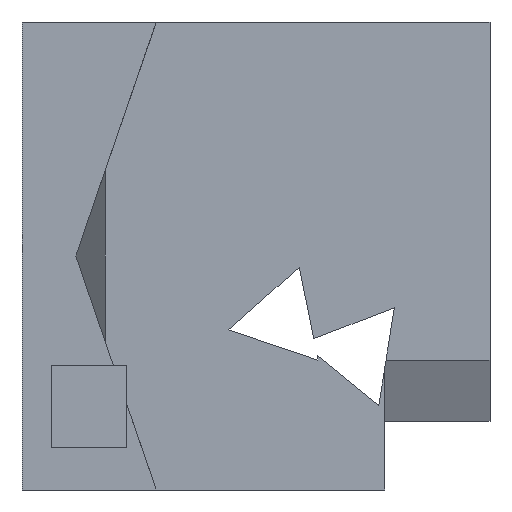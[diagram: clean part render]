
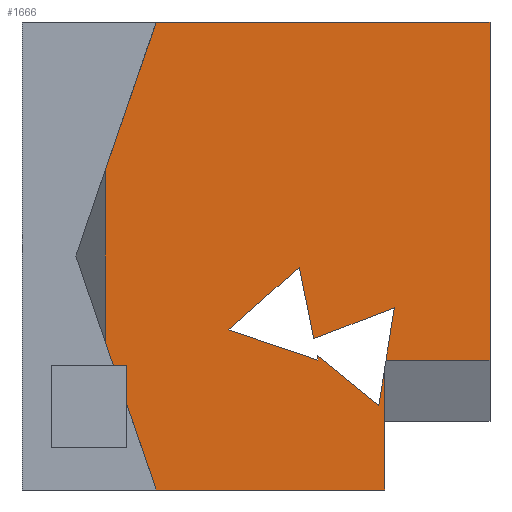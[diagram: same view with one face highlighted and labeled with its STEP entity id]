
A CAD part, front view. The second image highlights one B-rep face of the part: STEP entity #1666.
In plain terms, the highlighted planar face has unit normal (0, -1, 0).
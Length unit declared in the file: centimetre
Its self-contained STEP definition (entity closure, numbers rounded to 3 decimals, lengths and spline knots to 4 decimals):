
#4 = ORIENTED_EDGE ( 'NONE', *, *, #1403, .T. ) ;
#9 = DIRECTION ( 'NONE',  ( -0.75, 0., -0.661 ) ) ;
#31 = LINE ( 'NONE', #419, #900 ) ;
#52 = LINE ( 'NONE', #1656, #345 ) ;
#65 = VECTOR ( 'NONE', #1589, 100. ) ;
#81 = CARTESIAN_POINT ( 'NONE',  ( 775.6052, 0., 263.531 ) ) ;
#83 = VERTEX_POINT ( 'NONE', #1445 ) ;
#106 = EDGE_CURVE ( 'NONE', #389, #1037, #1415, .T. ) ;
#113 = CARTESIAN_POINT ( 'NONE',  ( 0., 0., 1000. ) ) ;
#116 = LINE ( 'NONE', #513, #561 ) ;
#136 = LINE ( 'NONE', #366, #65 ) ;
#156 = ORIENTED_EDGE ( 'NONE', *, *, #1637, .F. ) ;
#195 = DIRECTION ( 'NONE',  ( 0., 0., -1. ) ) ;
#220 = CARTESIAN_POINT ( 'NONE',  ( 222.6038, 0., 266.8172 ) ) ;
#233 = DIRECTION ( 'NONE',  ( 1., 0., 0. ) ) ;
#251 = ORIENTED_EDGE ( 'NONE', *, *, #457, .F. ) ;
#252 = LINE ( 'NONE', #113, #1678 ) ;
#258 = EDGE_CURVE ( 'NONE', #1135, #1655, #875, .T. ) ;
#298 = ORIENTED_EDGE ( 'NONE', *, *, #1005, .T. ) ;
#299 = CARTESIAN_POINT ( 'NONE',  ( 115.257, 0., 500. ) ) ;
#345 = VECTOR ( 'NONE', #578, 100. ) ;
#346 = ORIENTED_EDGE ( 'NONE', *, *, #535, .F. ) ;
#348 = DIRECTION ( 'NONE',  ( 0., 1., 0. ) ) ;
#366 = CARTESIAN_POINT ( 'NONE',  ( 762.434, 0., 180.6621 ) ) ;
#379 = CARTESIAN_POINT ( 'NONE',  ( 286.8849, 0., 0. ) ) ;
#389 = VERTEX_POINT ( 'NONE', #1055 ) ;
#395 = DIRECTION ( 'NONE',  ( 0., 0., -1. ) ) ;
#396 = EDGE_CURVE ( 'NONE', #860, #530, #252, .T. ) ;
#401 = ORIENTED_EDGE ( 'NONE', *, *, #944, .F. ) ;
#419 = CARTESIAN_POINT ( 'NONE',  ( 762.434, 0., 180.6621 ) ) ;
#438 = LINE ( 'NONE', #748, #837 ) ;
#457 = EDGE_CURVE ( 'NONE', #501, #459, #507, .T. ) ;
#459 = VERTEX_POINT ( 'NONE', #1178 ) ;
#469 = CARTESIAN_POINT ( 'NONE',  ( 177.6608, 0., 681.7996 ) ) ;
#479 = VERTEX_POINT ( 'NONE', #379 ) ;
#501 = VERTEX_POINT ( 'NONE', #827 ) ;
#507 = LINE ( 'NONE', #1576, #927 ) ;
#513 = CARTESIAN_POINT ( 'NONE',  ( 775.6052, 0., 277.6959 ) ) ;
#515 = CARTESIAN_POINT ( 'NONE',  ( 762.434, 0., 180.6621 ) ) ;
#530 = VERTEX_POINT ( 'NONE', #1080 ) ;
#535 = EDGE_CURVE ( 'NONE', #479, #613, #957, .T. ) ;
#538 = VERTEX_POINT ( 'NONE', #1354 ) ;
#553 = DIRECTION ( 'NONE',  ( -0.157, 0., -0.988 ) ) ;
#561 = VECTOR ( 'NONE', #1580, 100. ) ;
#563 = VECTOR ( 'NONE', #1302, 100. ) ;
#574 = VERTEX_POINT ( 'NONE', #1476 ) ;
#578 = DIRECTION ( 'NONE',  ( 0., 0., -1. ) ) ;
#582 = EDGE_CURVE ( 'NONE', #1167, #1326, #31, .T. ) ;
#593 = DIRECTION ( 'NONE',  ( -0.325, 0., 0.946 ) ) ;
#597 = ORIENTED_EDGE ( 'NONE', *, *, #1130, .F. ) ;
#613 = VERTEX_POINT ( 'NONE', #1594 ) ;
#618 = CARTESIAN_POINT ( 'NONE',  ( 775.6052, 0., 277.6959 ) ) ;
#620 = VECTOR ( 'NONE', #672, 100. ) ;
#644 = ORIENTED_EDGE ( 'NONE', *, *, #1303, .F. ) ;
#655 = DIRECTION ( 'NONE',  ( 0.948, 0., -0.319 ) ) ;
#672 = DIRECTION ( 'NONE',  ( 1., 0., 0. ) ) ;
#728 = DIRECTION ( 'NONE',  ( -0.197, 0., 0.98 ) ) ;
#736 = VECTOR ( 'NONE', #757, 100. ) ;
#737 = VERTEX_POINT ( 'NONE', #1078 ) ;
#748 = CARTESIAN_POINT ( 'NONE',  ( 62.1866, 0., 266.8172 ) ) ;
#757 = DIRECTION ( 'NONE',  ( -0.325, 0., 0.946 ) ) ;
#778 = CARTESIAN_POINT ( 'NONE',  ( 177.6608, 0., 1000. ) ) ;
#793 = CARTESIAN_POINT ( 'NONE',  ( 0., 0., 0. ) ) ;
#795 = DIRECTION ( 'NONE',  ( -0.777, 0., 0.63 ) ) ;
#796 = ORIENTED_EDGE ( 'NONE', *, *, #922, .F. ) ;
#811 = VECTOR ( 'NONE', #728, 100. ) ;
#827 = CARTESIAN_POINT ( 'NONE',  ( 440.8696, 0., 342.2389 ) ) ;
#837 = VECTOR ( 'NONE', #852, 100. ) ;
#844 = LINE ( 'NONE', #1367, #811 ) ;
#851 = VERTEX_POINT ( 'NONE', #220 ) ;
#852 = DIRECTION ( 'NONE',  ( -1., 0., 0. ) ) ;
#860 = VERTEX_POINT ( 'NONE', #977 ) ;
#875 = LINE ( 'NONE', #1675, #1038 ) ;
#877 = DIRECTION ( 'NONE',  ( 0., 0., 1. ) ) ;
#890 = EDGE_CURVE ( 'NONE', #479, #538, #1057, .T. ) ;
#891 = EDGE_LOOP ( 'NONE', ( #1200, #1124, #1672, #298, #1247, #1410, #401, #4, #1420, #597, #1270, #346, #1433, #156, #1276, #1154, #644, #251, #796 ) ) ;
#900 = VECTOR ( 'NONE', #553, 100. ) ;
#922 = EDGE_CURVE ( 'NONE', #83, #501, #1595, .T. ) ;
#923 = VECTOR ( 'NONE', #9, 100. ) ;
#927 = VECTOR ( 'NONE', #655, 100. ) ;
#930 = CARTESIAN_POINT ( 'NONE',  ( 286.8849, 0., 1000. ) ) ;
#932 = LINE ( 'NONE', #1447, #563 ) ;
#944 = EDGE_CURVE ( 'NONE', #1650, #860, #1688, .T. ) ;
#949 = VECTOR ( 'NONE', #1331, 100. ) ;
#957 = LINE ( 'NONE', #299, #1284 ) ;
#977 = CARTESIAN_POINT ( 'NONE',  ( 286.8849, 0., 1000. ) ) ;
#983 = CARTESIAN_POINT ( 'NONE',  ( 1000., 0., 277.6959 ) ) ;
#1002 = CARTESIAN_POINT ( 'NONE',  ( 795.593, 0., 389.2869 ) ) ;
#1005 = EDGE_CURVE ( 'NONE', #574, #1683, #116, .T. ) ;
#1034 = VECTOR ( 'NONE', #395, 100. ) ;
#1037 = VERTEX_POINT ( 'NONE', #1261 ) ;
#1038 = VECTOR ( 'NONE', #1275, 100. ) ;
#1051 = CARTESIAN_POINT ( 'NONE',  ( 592.5684, 0., 475.9029 ) ) ;
#1053 = LINE ( 'NONE', #778, #1034 ) ;
#1055 = CARTESIAN_POINT ( 'NONE',  ( 195.2984, 0., 266.8172 ) ) ;
#1057 = LINE ( 'NONE', #793, #620 ) ;
#1066 = VECTOR ( 'NONE', #195, 100. ) ;
#1078 = CARTESIAN_POINT ( 'NONE',  ( 630.4732, 0., 287.6406 ) ) ;
#1080 = CARTESIAN_POINT ( 'NONE',  ( 1000., 0., 1000. ) ) ;
#1104 = CARTESIAN_POINT ( 'NONE',  ( 0., 0., 1000. ) ) ;
#1105 = EDGE_CURVE ( 'NONE', #530, #1683, #52, .T. ) ;
#1124 = ORIENTED_EDGE ( 'NONE', *, *, #258, .T. ) ;
#1130 = EDGE_CURVE ( 'NONE', #851, #389, #438, .T. ) ;
#1135 = VERTEX_POINT ( 'NONE', #1501 ) ;
#1154 = ORIENTED_EDGE ( 'NONE', *, *, #1304, .T. ) ;
#1158 = CARTESIAN_POINT ( 'NONE',  ( 115.257, 0., 500. ) ) ;
#1164 = EDGE_CURVE ( 'NONE', #1135, #83, #844, .T. ) ;
#1167 = VERTEX_POINT ( 'NONE', #81 ) ;
#1174 = CARTESIAN_POINT ( 'NONE',  ( 598.3392, 0., 313.6911 ) ) ;
#1178 = CARTESIAN_POINT ( 'NONE',  ( 632.4754, 0., 277.6959 ) ) ;
#1200 = ORIENTED_EDGE ( 'NONE', *, *, #1164, .F. ) ;
#1247 = ORIENTED_EDGE ( 'NONE', *, *, #1105, .F. ) ;
#1261 = CARTESIAN_POINT ( 'NONE',  ( 177.6608, 0., 318.2004 ) ) ;
#1270 = ORIENTED_EDGE ( 'NONE', *, *, #1496, .F. ) ;
#1275 = DIRECTION ( 'NONE',  ( 0.934, 0., 0.358 ) ) ;
#1276 = ORIENTED_EDGE ( 'NONE', *, *, #582, .T. ) ;
#1284 = VECTOR ( 'NONE', #593, 100. ) ;
#1302 = DIRECTION ( 'NONE',  ( -0.197, 0., 0.98 ) ) ;
#1303 = EDGE_CURVE ( 'NONE', #459, #737, #932, .T. ) ;
#1304 = EDGE_CURVE ( 'NONE', #1326, #737, #1608, .T. ) ;
#1326 = VERTEX_POINT ( 'NONE', #515 ) ;
#1331 = DIRECTION ( 'NONE',  ( 0., 0., 1. ) ) ;
#1354 = CARTESIAN_POINT ( 'NONE',  ( 775.6052, 0., 0. ) ) ;
#1367 = CARTESIAN_POINT ( 'NONE',  ( 632.4754, 0., 277.6959 ) ) ;
#1378 = EDGE_CURVE ( 'NONE', #1655, #574, #136, .T. ) ;
#1403 = EDGE_CURVE ( 'NONE', #1650, #1037, #1053, .T. ) ;
#1410 = ORIENTED_EDGE ( 'NONE', *, *, #396, .F. ) ;
#1415 = LINE ( 'NONE', #1158, #736 ) ;
#1417 = DIRECTION ( 'NONE',  ( 0.325, 0., 0.946 ) ) ;
#1418 = VECTOR ( 'NONE', #795, 100. ) ;
#1420 = ORIENTED_EDGE ( 'NONE', *, *, #106, .F. ) ;
#1433 = ORIENTED_EDGE ( 'NONE', *, *, #890, .T. ) ;
#1445 = CARTESIAN_POINT ( 'NONE',  ( 592.5684, 0., 475.9029 ) ) ;
#1447 = CARTESIAN_POINT ( 'NONE',  ( 632.4754, 0., 277.6959 ) ) ;
#1476 = CARTESIAN_POINT ( 'NONE',  ( 777.8566, 0., 277.6959 ) ) ;
#1496 = EDGE_CURVE ( 'NONE', #613, #851, #1612, .T. ) ;
#1501 = CARTESIAN_POINT ( 'NONE',  ( 623.302, 0., 323.2579 ) ) ;
#1510 = LINE ( 'NONE', #618, #1066 ) ;
#1517 = FACE_OUTER_BOUND ( 'NONE', #891, .T. ) ;
#1535 = AXIS2_PLACEMENT_3D ( 'NONE', #1104, #348, #877 ) ;
#1537 = PLANE ( 'NONE',  #1535 ) ;
#1576 = CARTESIAN_POINT ( 'NONE',  ( 440.8696, 0., 342.2389 ) ) ;
#1580 = DIRECTION ( 'NONE',  ( 1., 0., 0. ) ) ;
#1589 = DIRECTION ( 'NONE',  ( -0.157, 0., -0.988 ) ) ;
#1594 = CARTESIAN_POINT ( 'NONE',  ( 222.6038, 0., 187.2689 ) ) ;
#1595 = LINE ( 'NONE', #1051, #923 ) ;
#1608 = LINE ( 'NONE', #1174, #1418 ) ;
#1612 = LINE ( 'NONE', #1629, #949 ) ;
#1629 = CARTESIAN_POINT ( 'NONE',  ( 222.6038, 0., 90.8346 ) ) ;
#1637 = EDGE_CURVE ( 'NONE', #1167, #538, #1510, .T. ) ;
#1650 = VERTEX_POINT ( 'NONE', #469 ) ;
#1655 = VERTEX_POINT ( 'NONE', #1002 ) ;
#1656 = CARTESIAN_POINT ( 'NONE',  ( 1000., 0., 1000. ) ) ;
#1666 = ADVANCED_FACE ( 'NONE', ( #1517 ), #1537, .F. ) ;
#1672 = ORIENTED_EDGE ( 'NONE', *, *, #1378, .T. ) ;
#1675 = CARTESIAN_POINT ( 'NONE',  ( 795.593, 0., 389.2869 ) ) ;
#1678 = VECTOR ( 'NONE', #233, 100. ) ;
#1683 = VERTEX_POINT ( 'NONE', #983 ) ;
#1688 = LINE ( 'NONE', #930, #1703 ) ;
#1703 = VECTOR ( 'NONE', #1417, 100. ) ;
